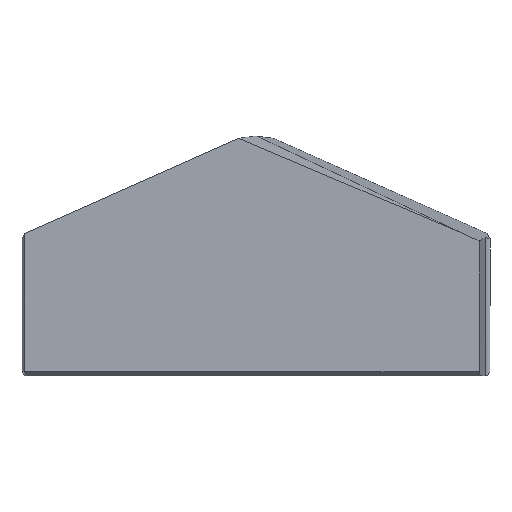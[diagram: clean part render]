
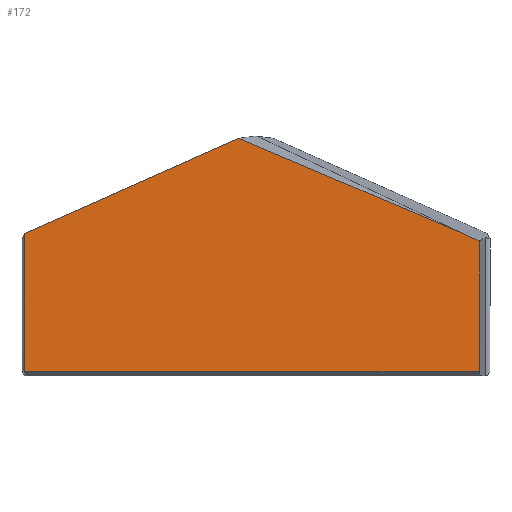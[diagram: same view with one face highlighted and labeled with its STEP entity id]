
A CAD part, top view. The second image highlights one B-rep face of the part: STEP entity #172.
In plain terms, the highlighted planar face has unit normal (0, 0, 1).
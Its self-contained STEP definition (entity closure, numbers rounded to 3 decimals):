
#1 = VERTEX_POINT ( 'NONE', #456 ) ;
#16 = EDGE_CURVE ( 'NONE', #239, #1, #528, .T. ) ;
#19 = DIRECTION ( 'NONE',  ( 1., 0., 0. ) ) ;
#51 = VECTOR ( 'NONE', #392, 1000. ) ;
#56 = CARTESIAN_POINT ( 'NONE',  ( -1.167, 16.1, 4.8 ) ) ;
#63 = CARTESIAN_POINT ( 'NONE',  ( 0., 0., 4.8 ) ) ;
#70 = LINE ( 'NONE', #477, #316 ) ;
#76 = CARTESIAN_POINT ( 'NONE',  ( -15.693, 0., 4.8 ) ) ;
#82 = DIRECTION ( 'NONE',  ( -0.92, 0.391, 0. ) ) ;
#87 = ORIENTED_EDGE ( 'NONE', *, *, #494, .T. ) ;
#92 = EDGE_CURVE ( 'NONE', #1, #148, #232, .T. ) ;
#106 = VERTEX_POINT ( 'NONE', #56 ) ;
#110 = CARTESIAN_POINT ( 'NONE',  ( -15.693, 0.3, 4.8 ) ) ;
#111 = DIRECTION ( 'NONE',  ( 0., 0., 1. ) ) ;
#124 = CARTESIAN_POINT ( 'NONE',  ( 5.619, 13.215, 4.8 ) ) ;
#132 = LINE ( 'NONE', #76, #51 ) ;
#138 = EDGE_LOOP ( 'NONE', ( #270, #446, #281, #146, #87, #236, #455 ) ) ;
#146 = ORIENTED_EDGE ( 'NONE', *, *, #376, .F. ) ;
#148 = VERTEX_POINT ( 'NONE', #540 ) ;
#170 = CARTESIAN_POINT ( 'NONE',  ( -15.686, 0.289, 4.8 ) ) ;
#172 = ADVANCED_FACE ( 'NONE', ( #228 ), #286, .T. ) ;
#183 = CARTESIAN_POINT ( 'NONE',  ( 15.125, 0., 4.8 ) ) ;
#184 = DIRECTION ( 'NONE',  ( 0., 1., 0. ) ) ;
#187 = LINE ( 'NONE', #440, #227 ) ;
#199 = VECTOR ( 'NONE', #184, 1000. ) ;
#204 = CARTESIAN_POINT ( 'NONE',  ( -15.69, 0.296, 4.8 ) ) ;
#227 = VECTOR ( 'NONE', #434, 1000. ) ;
#228 = FACE_OUTER_BOUND ( 'NONE', #138, .T. ) ;
#232 = LINE ( 'NONE', #283, #284 ) ;
#236 = ORIENTED_EDGE ( 'NONE', *, *, #525, .T. ) ;
#239 = VERTEX_POINT ( 'NONE', #241 ) ;
#241 = CARTESIAN_POINT ( 'NONE',  ( 15.125, 0.289, 4.8 ) ) ;
#268 = LINE ( 'NONE', #124, #549 ) ;
#270 = ORIENTED_EDGE ( 'NONE', *, *, #92, .T. ) ;
#279 = DIRECTION ( 'NONE',  ( -0.914, 0.407, 0. ) ) ;
#281 = ORIENTED_EDGE ( 'NONE', *, *, #364, .T. ) ;
#283 = CARTESIAN_POINT ( 'NONE',  ( 5.901, 13.254, 4.8 ) ) ;
#284 = VECTOR ( 'NONE', #279, 1000. ) ;
#286 = PLANE ( 'NONE',  #507 ) ;
#287 = CARTESIAN_POINT ( 'NONE',  ( -15.686, 0.289, 4.8 ) ) ;
#301 = CARTESIAN_POINT ( 'NONE',  ( -15.693, 9.633, 4.8 ) ) ;
#316 = VECTOR ( 'NONE', #521, 1000. ) ;
#364 = EDGE_CURVE ( 'NONE', #106, #484, #70, .T. ) ;
#372 = B_SPLINE_CURVE_WITH_KNOTS ( 'NONE', 3,
 ( #431, #204, #550, #287 ),
 .UNSPECIFIED., .F., .F.,
 ( 4, 4 ),
 ( 0., 0. ),
 .UNSPECIFIED. ) ;
#376 = EDGE_CURVE ( 'NONE', #501, #484, #132, .T. ) ;
#392 = DIRECTION ( 'NONE',  ( 0., 1., 0. ) ) ;
#419 = EDGE_CURVE ( 'NONE', #148, #106, #268, .T. ) ;
#431 = CARTESIAN_POINT ( 'NONE',  ( -15.693, 0.3, 4.8 ) ) ;
#434 = DIRECTION ( 'NONE',  ( 1., 0., 0. ) ) ;
#440 = CARTESIAN_POINT ( 'NONE',  ( 15.517, 0.289, 4.8 ) ) ;
#446 = ORIENTED_EDGE ( 'NONE', *, *, #419, .T. ) ;
#455 = ORIENTED_EDGE ( 'NONE', *, *, #16, .T. ) ;
#456 = CARTESIAN_POINT ( 'NONE',  ( 15.125, 9.147, 4.8 ) ) ;
#477 = CARTESIAN_POINT ( 'NONE',  ( 0., 16.62, 4.8 ) ) ;
#484 = VERTEX_POINT ( 'NONE', #301 ) ;
#494 = EDGE_CURVE ( 'NONE', #501, #551, #372, .T. ) ;
#501 = VERTEX_POINT ( 'NONE', #110 ) ;
#507 = AXIS2_PLACEMENT_3D ( 'NONE', #63, #111, #19 ) ;
#521 = DIRECTION ( 'NONE',  ( -0.914, -0.407, 0. ) ) ;
#525 = EDGE_CURVE ( 'NONE', #551, #239, #187, .T. ) ;
#528 = LINE ( 'NONE', #183, #199 ) ;
#540 = CARTESIAN_POINT ( 'NONE',  ( 13.842, 9.719, 4.8 ) ) ;
#549 = VECTOR ( 'NONE', #82, 1000. ) ;
#550 = CARTESIAN_POINT ( 'NONE',  ( -15.688, 0.292, 4.8 ) ) ;
#551 = VERTEX_POINT ( 'NONE', #170 ) ;
